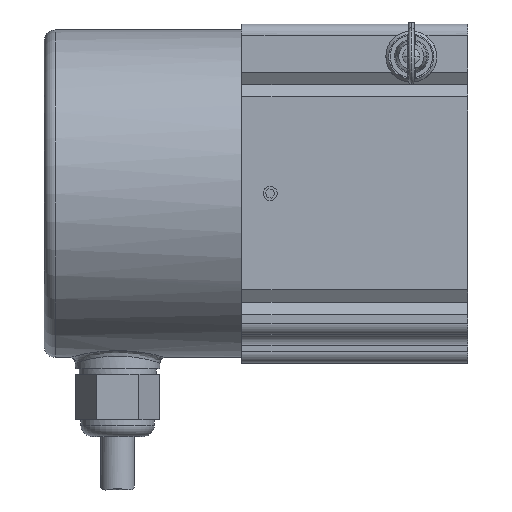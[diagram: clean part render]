
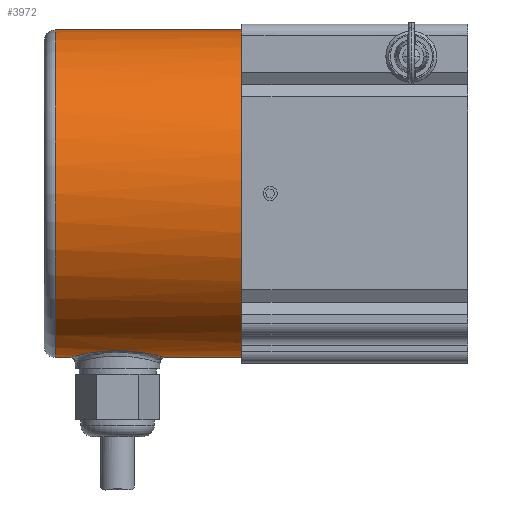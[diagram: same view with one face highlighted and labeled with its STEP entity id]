
A CAD part, top view. The second image highlights one B-rep face of the part: STEP entity #3972.
In plain terms, the highlighted cylindrical face has radius 29 mm (diameter 58 mm), a partial arc.
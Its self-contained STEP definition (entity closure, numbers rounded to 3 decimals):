
#10=CARTESIAN_POINT('',(-40.,0.,0.));
#11=DIRECTION('',(-1.,0.,0.));
#12=DIRECTION('',(0.,-1.,0.));
#13=AXIS2_PLACEMENT_3D('',#10,#11,#12);
#20=CARTESIAN_POINT('',(-40.,0.,0.));
#21=DIRECTION('',(-1.,0.,0.));
#22=DIRECTION('',(0.,-0.805,0.593));
#23=AXIS2_PLACEMENT_3D('',#20,#21,#22);
#56=CARTESIAN_POINT('',(-40.,0.,0.));
#57=DIRECTION('',(-1.,0.,0.));
#58=DIRECTION('',(0.,-0.537,0.843));
#59=AXIS2_PLACEMENT_3D('',#56,#57,#58);
#61=CARTESIAN_POINT('',(-40.,0.,0.));
#62=DIRECTION('',(-1.,0.,0.));
#63=DIRECTION('',(0.,0.593,0.805));
#64=AXIS2_PLACEMENT_3D('',#61,#62,#63);
#161=DIRECTION('',(1.,0.,0.));
#162=VECTOR('',#161,33.);
#163=CARTESIAN_POINT('',(-73.,29.,0.));
#164=LINE('',#163,#162);
#165=DIRECTION('',(1.,0.,0.));
#166=VECTOR('',#165,2.5);
#167=CARTESIAN_POINT('',(-73.,-29.,0.));
#168=LINE('',#167,#166);
#169=DIRECTION('',(1.,0.,0.));
#170=VECTOR('',#169,13.5);
#171=CARTESIAN_POINT('',(-53.5,-29.,0.));
#172=LINE('',#171,#170);
#208=CARTESIAN_POINT('',(-73.,0.,0.));
#209=DIRECTION('',(1.,0.,0.));
#210=DIRECTION('',(0.,1.,0.));
#211=AXIS2_PLACEMENT_3D('',#208,#209,#210);
#213=CARTESIAN_POINT('',(-73.,0.,0.));
#214=DIRECTION('',(1.,0.,0.));
#215=DIRECTION('',(0.,1.,0.005));
#216=AXIS2_PLACEMENT_3D('',#213,#214,#215);
#265=CARTESIAN_POINT('',(-70.5,-29.,0.));
#266=CARTESIAN_POINT('',(-70.5,-29.,
0.257));
#267=CARTESIAN_POINT('',(-70.475,-28.993,
0.771));
#268=CARTESIAN_POINT('',(-70.361,-28.962,1.546));
#269=CARTESIAN_POINT('',(-70.17,-28.911,2.312));
#270=CARTESIAN_POINT('',(-69.902,-28.841,3.062));
#271=CARTESIAN_POINT('',(-69.557,-28.754,3.789));
#272=CARTESIAN_POINT('',(-69.137,-28.654,4.487));
#273=CARTESIAN_POINT('',(-68.643,-28.542,5.148));
#274=CARTESIAN_POINT('',(-68.078,-28.424,5.763));
#275=CARTESIAN_POINT('',(-67.451,-28.304,6.323));
#276=CARTESIAN_POINT('',(-66.769,-28.188,6.818));
#277=CARTESIAN_POINT('',(-66.039,-28.081,7.246));
#278=CARTESIAN_POINT('',(-65.268,-27.987,7.6));
#279=CARTESIAN_POINT('',(-64.47,-27.91,7.876));
#280=CARTESIAN_POINT('',(-63.654,-27.854,8.073));
#281=CARTESIAN_POINT('',(-62.824,-27.819,8.191));
#282=CARTESIAN_POINT('',(-61.987,-27.808,8.23));
#283=CARTESIAN_POINT('',(-61.148,-27.82,8.189));
#284=CARTESIAN_POINT('',(-60.317,-27.855,8.068));
#285=CARTESIAN_POINT('',(-59.5,-27.913,7.868));
#286=CARTESIAN_POINT('',(-58.706,-27.99,7.589));
#287=CARTESIAN_POINT('',(-57.939,-28.084,7.234));
#288=CARTESIAN_POINT('',(-57.209,-28.192,6.804));
#289=CARTESIAN_POINT('',(-56.527,-28.308,6.305));
#290=CARTESIAN_POINT('',(-55.902,-28.428,5.744));
#291=CARTESIAN_POINT('',(-55.342,-28.545,5.13));
#292=CARTESIAN_POINT('',(-54.852,-28.656,4.471));
#293=CARTESIAN_POINT('',(-54.434,-28.757,3.773));
#294=CARTESIAN_POINT('',(-54.09,-28.843,3.044));
#295=CARTESIAN_POINT('',(-53.824,-28.913,2.292));
#296=CARTESIAN_POINT('',(-53.635,-28.963,1.528));
#297=CARTESIAN_POINT('',(-53.524,-28.993,
0.759));
#298=CARTESIAN_POINT('',(-53.5,-29.,
0.253));
#299=CARTESIAN_POINT('',(-53.5,-29.,0.));
#761=CARTESIAN_POINT('',(-40.,0.,0.));
#762=DIRECTION('',(-1.,0.,0.));
#763=DIRECTION('',(0.,-0.593,0.805));
#764=AXIS2_PLACEMENT_3D('',#761,#762,#763);
#766=CARTESIAN_POINT('',(-40.,0.,0.));
#767=DIRECTION('',(-1.,0.,0.));
#768=DIRECTION('',(0.,0.537,0.843));
#769=AXIS2_PLACEMENT_3D('',#766,#767,#768);
#771=CARTESIAN_POINT('',(-40.,0.,0.));
#772=DIRECTION('',(-1.,0.,0.));
#773=DIRECTION('',(0.,-0.843,0.537));
#774=AXIS2_PLACEMENT_3D('',#771,#772,#773);
#3522=CARTESIAN_POINT('',(-40.,-29.,0.));
#3523=CARTESIAN_POINT('',(-40.,-24.456,15.586));
#3524=VERTEX_POINT('',#3522);
#3525=VERTEX_POINT('',#3523);
#3526=CARTESIAN_POINT('',(-40.,-23.353,17.194));
#3527=CARTESIAN_POINT('',(-40.,-17.194,23.353));
#3528=VERTEX_POINT('',#3526);
#3529=VERTEX_POINT('',#3527);
#3530=CARTESIAN_POINT('',(-40.,-15.586,24.456));
#3531=CARTESIAN_POINT('',(-40.,15.586,24.456));
#3532=VERTEX_POINT('',#3530);
#3533=VERTEX_POINT('',#3531);
#3534=CARTESIAN_POINT('',(-40.,17.194,23.353));
#3535=CARTESIAN_POINT('',(-40.,29.,0.));
#3536=VERTEX_POINT('',#3534);
#3537=VERTEX_POINT('',#3535);
#3568=CARTESIAN_POINT('',(-73.,29.,0.));
#3569=VERTEX_POINT('',#3568);
#3570=CARTESIAN_POINT('',(-53.5,-29.,0.));
#3571=VERTEX_POINT('',#3570);
#3572=VERTEX_POINT('',#265);
#3573=CARTESIAN_POINT('',(-73.,-29.,0.));
#3574=VERTEX_POINT('',#3573);
#3575=CARTESIAN_POINT('',(-73.,29.,0.154));
#3576=VERTEX_POINT('',#3575);
#3943=CARTESIAN_POINT('',(-40.,0.,0.));
#3944=DIRECTION('',(-1.,0.,0.));
#3945=DIRECTION('',(0.,-1.,0.));
#3946=AXIS2_PLACEMENT_3D('',#3943,#3944,#3945);
#3947=CYLINDRICAL_SURFACE('',#3946,29.);
#3948=ORIENTED_EDGE('',*,*,#3709,.F.);
#3950=ORIENTED_EDGE('',*,*,#3949,.F.);
#3952=ORIENTED_EDGE('',*,*,#3951,.F.);
#3954=ORIENTED_EDGE('',*,*,#3953,.F.);
#3956=ORIENTED_EDGE('',*,*,#3955,.F.);
#3958=ORIENTED_EDGE('',*,*,#3957,.F.);
#3960=ORIENTED_EDGE('',*,*,#3959,.T.);
#3961=ORIENTED_EDGE('',*,*,#3803,.F.);
#3963=ORIENTED_EDGE('',*,*,#3962,.F.);
#3964=ORIENTED_EDGE('',*,*,#3779,.F.);
#3966=ORIENTED_EDGE('',*,*,#3965,.F.);
#3967=ORIENTED_EDGE('',*,*,#3735,.F.);
#3969=ORIENTED_EDGE('',*,*,#3968,.F.);
#3970=EDGE_LOOP('',(#3948,#3950,#3952,#3954,#3956,#3958,#3960,#3961,#3963,#3964,
#3966,#3967,#3969));
#3971=FACE_OUTER_BOUND('',#3970,.F.);
#3972=ADVANCED_FACE('',(#3971),#3947,.T.);
#14=CIRCLE('',#13,29.);
#24=CIRCLE('',#23,29.);
#60=CIRCLE('',#59,29.);
#65=CIRCLE('',#64,29.);
#212=CIRCLE('',#211,29.);
#217=CIRCLE('',#216,29.);
#300=B_SPLINE_CURVE_WITH_KNOTS('',3,(#265,#266,#267,#268,#269,#270,#271,#272,
#273,#274,#275,#276,#277,#278,#279,#280,#281,#282,#283,#284,#285,#286,#287,#288,
#289,#290,#291,#292,#293,#294,#295,#296,#297,#298,#299),.UNSPECIFIED.,.F.,.F.,
(4,1,1,1,1,1,1,1,1,1,1,1,1,1,1,1,1,1,1,1,1,1,1,1,1,1,1,1,1,1,1,1,4),(0.,
0.031,0.063,0.094,0.125,0.156,0.188,0.219,0.25,0.281,
0.313,0.344,0.375,0.406,0.438,0.469,0.5,0.531,
0.563,0.594,0.625,0.656,0.688,0.719,0.75,0.781,
0.813,0.844,0.875,0.906,0.938,0.969,1.),.UNSPECIFIED.);
#765=CIRCLE('',#764,29.);
#770=CIRCLE('',#769,29.);
#775=CIRCLE('',#774,29.);
#3709=EDGE_CURVE('',#3524,#3525,#14,.T.);
#3735=EDGE_CURVE('',#3528,#3529,#24,.T.);
#3779=EDGE_CURVE('',#3532,#3533,#60,.T.);
#3803=EDGE_CURVE('',#3536,#3537,#65,.T.);
#3949=EDGE_CURVE('',#3571,#3524,#172,.T.);
#3951=EDGE_CURVE('',#3572,#3571,#300,.T.);
#3953=EDGE_CURVE('',#3574,#3572,#168,.T.);
#3955=EDGE_CURVE('',#3576,#3574,#217,.T.);
#3957=EDGE_CURVE('',#3569,#3576,#212,.T.);
#3959=EDGE_CURVE('',#3569,#3537,#164,.T.);
#3962=EDGE_CURVE('',#3533,#3536,#770,.T.);
#3965=EDGE_CURVE('',#3529,#3532,#765,.T.);
#3968=EDGE_CURVE('',#3525,#3528,#775,.T.);
